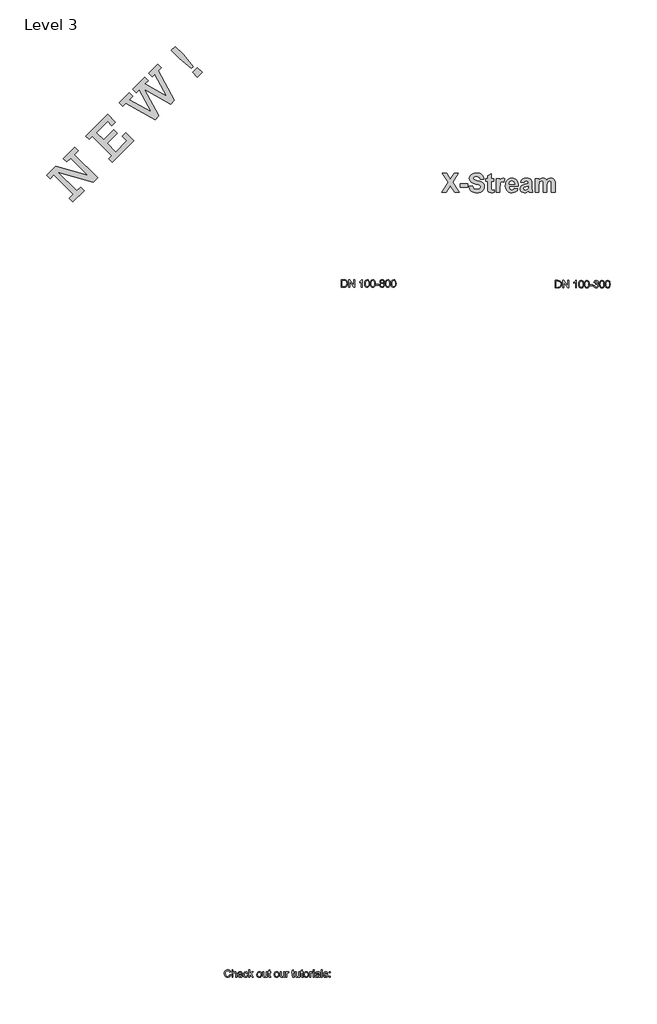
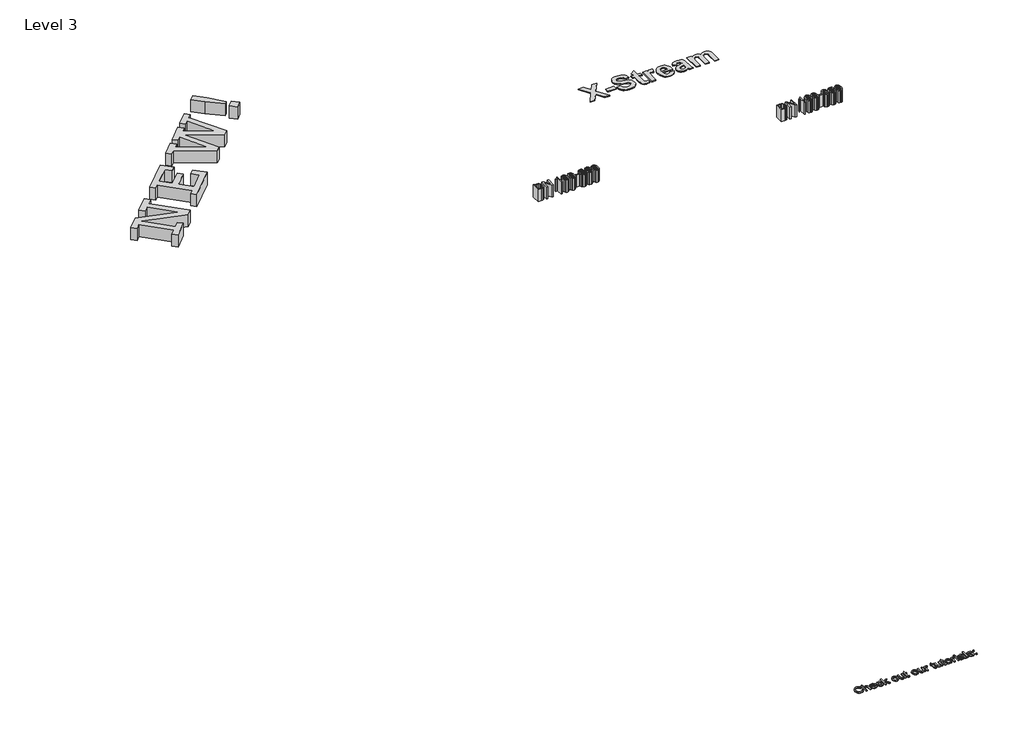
# One storey, incomplete: 5 proxies.
"""IFC4 building model written with IfcOpenShell, lengths in millimetres."""

import ifcopenshell
import ifcopenshell.guid

model = None  # the IFC model being written
_history = None  # IfcOwnerHistory: only IFC2X3 demands one
_inside = {}  # id of a spatial element -> (the spatial element, [elements in it])
_under = {}  # id of a project, library or spatial element -> (it, [spatial elements below it])
_declared = {}  # id of a project -> (the project, [libraries it declares])
_typed = {}  # id of a type object -> (the type object, [elements of that type])
_made_of = {}  # id of a material, layer set ... -> (it, [elements and type objects made of it])


def new_model(schema):
    """Start an empty IFC model of exactly this schema.

    Asked for "IFC4X3", IfcOpenShell would pick the latest addendum, in which some entities
    have other attributes; the version numbers below select the first issue.
    IFC2X3 requires an IfcOwnerHistory on every rooted entity: one is made here for all.
    """
    global model, _history
    if schema == "IFC4X3":
        model = ifcopenshell.file(schema_version=(4, 3, 0, 0))
    else:
        model = ifcopenshell.file(schema=schema)
    _inside.clear()
    _under.clear()
    _declared.clear()
    _typed.clear()
    _made_of.clear()
    _history = None
    if model.schema == "IFC2X3":
        org = make("IfcOrganization", Name="unknown")
        user = make(
            "IfcPersonAndOrganization",
            ThePerson=make("IfcPerson", FamilyName="unknown"),
            TheOrganization=org,
        )
        app = make(
            "IfcApplication",
            ApplicationDeveloper=org,
            Version="unknown",
            ApplicationFullName="unknown",
            ApplicationIdentifier="unknown",
        )
        _history = make(
            "IfcOwnerHistory",
            OwningUser=user,
            OwningApplication=app,
            ChangeAction="ADDED",
            CreationDate=0,
        )
    return model


def make(cls, **values):
    """One entity of the class cls with the attributes given. An attribute that is None is left unset."""
    return model.create_entity(
        cls, **{name: value for name, value in values.items() if value is not None}
    )


def rooted(cls, **values):
    """An entity with a GlobalId (a new one), such as an element, a storey or a relation."""
    return make(cls, GlobalId=ifcopenshell.guid.new(), OwnerHistory=_history, **values)


def si_unit(unit_type, name, prefix=None):
    """IfcSIUnit, for example si_unit("LENGTHUNIT", "METRE", prefix="MILLI")."""
    return make("IfcSIUnit", UnitType=unit_type, Prefix=prefix, Name=name)


def assignment(units):
    """IfcUnitAssignment: the units of a project."""
    return None if units is None else make("IfcUnitAssignment", Units=units)


def point(xyz):
    """IfcCartesianPoint."""
    return None if xyz is None else make("IfcCartesianPoint", Coordinates=xyz)


def direction(xyz):
    """IfcDirection."""
    return None if xyz is None else make("IfcDirection", DirectionRatios=xyz)


def frame(location, z_axis=None, x_axis=None):
    """IfcAxis2Placement3D, a coordinate frame: its origin and axes. An axis left out is left unset."""
    return make(
        "IfcAxis2Placement3D",
        Location=point(location),
        Axis=direction(z_axis),
        RefDirection=direction(x_axis),
    )


def origin():
    """The frame at (0, 0, 0) with its axes left unset."""
    return frame((0.0, 0.0, 0.0))


def origin_with_axes():
    """The frame at (0, 0, 0) with the z axis (0, 0, 1) and the x axis (1, 0, 0) written out."""
    return frame((0.0, 0.0, 0.0), z_axis=(0.0, 0.0, 1.0), x_axis=(1.0, 0.0, 0.0))


def place(relative_to, where):
    """IfcLocalPlacement: puts the frame where relative to a parent placement (None: the world)."""
    return make(
        "IfcLocalPlacement", PlacementRelTo=relative_to, RelativePlacement=where
    )


def context(
    kind, dimensions, precision=None, world=None, true_north=None, identifier=None
):
    """IfcGeometricRepresentationContext, for example the 3D "Model" context."""
    return make(
        "IfcGeometricRepresentationContext",
        ContextIdentifier=identifier,
        ContextType=kind,
        CoordinateSpaceDimension=dimensions,
        Precision=precision,
        WorldCoordinateSystem=world,
        TrueNorth=true_north,
    )


def project(units=None, contexts=None):
    """IfcProject with its units and contexts."""
    return rooted(
        "IfcProject",
        Name="project",
        RepresentationContexts=contexts,
        UnitsInContext=assignment(units),
    )


def spatial(cls, under=None, at=None, **own):
    """A site, building, storey or space (cls), placed at a placement, below another one or the project."""
    s = rooted(cls, ObjectPlacement=at, **own)
    if under is not None:
        _under.setdefault(under.id(), (under, []))[1].append(s)
    return s


def polyline(points):
    """IfcPolyline through the points."""
    return make("IfcPolyline", Points=[point(p) for p in points])


def outline(outer, holes=None, kind="AREA"):
    """IfcArbitraryClosedProfileDef: a profile drawn as a closed curve; with holes, ...WithVoids."""
    if holes is None:
        return make("IfcArbitraryClosedProfileDef", ProfileType=kind, OuterCurve=outer)
    return make(
        "IfcArbitraryProfileDefWithVoids",
        ProfileType=kind,
        OuterCurve=outer,
        InnerCurves=holes,
    )


def extrude(swept, where, along, depth):
    """IfcExtrudedAreaSolid: the profile swept, set in the frame where, extruded along a direction by depth."""
    return make(
        "IfcExtrudedAreaSolid",
        SweptArea=swept,
        Position=where,
        ExtrudedDirection=direction(along),
        Depth=depth,
    )


def shape(context_of_items, identifier, shape_type, items):
    """IfcShapeRepresentation: the items that make up one representation, for example the "Body"."""
    return make(
        "IfcShapeRepresentation",
        ContextOfItems=context_of_items,
        RepresentationIdentifier=identifier,
        RepresentationType=shape_type,
        Items=items,
    )


def made_of(thing, what):
    """Note that an element or type object is made of a material, layer set ...; save() writes the relation."""
    if what is not None:
        _made_of.setdefault(what.id(), (what, []))[1].append(thing)
    return thing


def element(
    cls,
    number,
    at=None,
    inside=None,
    cuts=None,
    type_object=None,
    material=None,
    context=None,
    identifier="Body",
    shape_type=None,
    held_by="IfcProductDefinitionShape",
    body=None,
    shapes=None,
    **own,
):
    """One element of the class cls, such as IfcWall. Its Tag is "e" and its number.

    at: its placement. inside: the storey or other place that contains it. cuts: it is an
    opening in that element (IfcRelVoidsElement). A single representation is given by context,
    identifier, shape_type and body (its items); several are given by shapes. held_by: the class
    of the entity that holds the representations. save() writes the other relations.
    """
    e = rooted(cls, Tag="e%d" % number, ObjectPlacement=at, **own)
    if body is not None:
        shapes = [shape(context, identifier, shape_type, body)]
    if shapes is not None:
        e.Representation = make(held_by, Representations=shapes)
    if inside is not None:
        _inside.setdefault(inside.id(), (inside, []))[1].append(e)
    if cuts is not None:
        rooted(
            "IfcRelVoidsElement", RelatingBuildingElement=cuts, RelatedOpeningElement=e
        )
    if type_object is not None:
        _typed.setdefault(type_object.id(), (type_object, []))[1].append(e)
    return made_of(e, material)


def aggregate(whole, parts):
    """IfcRelAggregates: a whole, such as a stair, and the parts it consists of."""
    return rooted("IfcRelAggregates", RelatingObject=whole, RelatedObjects=parts)


def save(model, path):
    """Write the relations noted so far, then the file.

    IfcRelAggregates (storeys below a building ...), IfcRelContainedInSpatialStructure (elements
    in a storey), IfcRelDefinesByType, IfcRelAssociatesMaterial and IfcRelDeclares: one each for
    every whole, place, type object, material and project.
    """
    for whole, parts in _under.values():
        aggregate(whole, parts)
    for where, things in _inside.values():
        rooted(
            "IfcRelContainedInSpatialStructure",
            RelatedElements=things,
            RelatingStructure=where,
        )
    for kind, things in _typed.values():
        rooted("IfcRelDefinesByType", RelatedObjects=things, RelatingType=kind)
    for what, things in _made_of.values():
        rooted("IfcRelAssociatesMaterial", RelatedObjects=things, RelatingMaterial=what)
    for by, libraries in _declared.values():
        rooted("IfcRelDeclares", RelatingContext=by, RelatedDefinitions=libraries)
    model.write(path)


model = new_model("IFC4")

# Units and contexts
model_context = context("Model", 3, world=origin())
ifc_project = project(units=[si_unit("LENGTHUNIT", "METRE", prefix="MILLI")], contexts=[model_context])

# Site, building, storey
site = spatial("IfcSite", under=ifc_project)
building = spatial("IfcBuilding", under=site)
storey = spatial("IfcBuildingStorey", under=building, Name="Level 3", Elevation=0.0)

# Proxies
placement = place(None, origin())
element("IfcBuildingElementProxy", 1, Name="Rockwell 500", ObjectType="Rockwell 500", at=placement, inside=storey, context=model_context, shape_type="SweptSolid", body=[
    extrude(outline(polyline([(-2591.4564423, 10466.7226895), (-2851.7151671, 10726.9814143), (-2903.7669121, 10674.9296693), (-2950.0351298, 10721.197887), (-2826.0507651, 10845.1822518), (-2396.8046044, 10723.1859745), (-2626.1576056, 10952.5389757), (-2678.2093506, 10900.4872308), (-2724.4775683, 10946.7554485), (-2574.1058607, 11097.1271562), (-2527.8376429, 11050.8589384), (-2579.8893879, 10998.8071935), (-2267.5789181, 10686.4967237), (-2323.4261028, 10630.649539), (-2797.8560699, 10765.6587525), (-2545.1882246, 10512.9909072), (-2493.1364796, 10565.0426522), (-2446.8682619, 10518.7744344), (-2597.2399695, 10368.4027268), (-2643.5081873, 10414.6709445), (-2591.4564423, 10466.7226895)])), origin_with_axes(), (0.0, 0.0, 1.0), 150.0),
    extrude(outline(polyline([(-2076.72252, 10981.4566118), (-2336.9812448, 11241.7153366), (-2377.4659353, 11201.2306461), (-2423.734153, 11247.4988638), (-2134.5577921, 11536.6752247), (-2030.4543022, 11432.5717348), (-2076.72252, 11386.3035171), (-2134.5577921, 11444.1387892), (-2284.9294998, 11293.7670816), (-2186.6095371, 11195.4471189), (-2053.5884111, 11328.4682449), (-2007.3201934, 11282.2000271), (-2140.3413194, 11149.1789011), (-2024.670775, 11033.5083568), (-1874.2990674, 11183.8800644), (-1937.9178667, 11247.4988638), (-1891.649649, 11293.7670816), (-1781.7626319, 11183.8800644), (-2070.9389928, 10894.7037036), (-2117.2072105, 10940.9719213), (-2076.72252, 10981.4566118)])), origin_with_axes(), (0.0, 0.0, 1.0), 150.0),
    extrude(outline(polyline([(-1498.5505334, 11467.0921629), (-1891.649649, 11687.0469324), (-1932.1343395, 11646.5622418), (-1978.4025573, 11692.8304596), (-1845.3814313, 11825.8515856), (-1799.1132135, 11779.5833678), (-1843.2126086, 11735.4839728), (-1552.319263, 11573.2741079), (-1712.7217757, 11865.9748057), (-1752.8449958, 11825.8515856), (-1799.1132135, 11872.1198033), (-1637.1744514, 12034.0585654), (-1590.9062337, 11987.7903477), (-1633.7404822, 11944.9560992), (-1344.1122832, 11781.4810877), (-1504.5147959, 12074.1817855), (-1538.8544887, 12039.8420926), (-1585.1227065, 12086.1103104), (-1463.6686349, 12207.5643819), (-1417.4004172, 12161.2961642), (-1457.8851077, 12120.8114737), (-1240.2798961, 11725.3628002), (-1290.4339212, 11675.2087751), (-1642.1446701, 11871.3064948), (-1449.5712873, 11516.071409), (-1498.5505334, 11467.0921629)])), origin_with_axes(), (0.0, 0.0, 1.0), 150.0),
    extrude(outline(polyline([(-984.9913901, 12177.2912317), (-1011.1979978, 12151.084624), (-1172.4138189, 12286.4553079), (-1278.595764, 12392.6372529), (-1226.544019, 12444.6889979), (-1120.362074, 12338.5070528), (-984.9913901, 12177.2912317)])), origin_with_axes(), (0.0, 0.0, 1.0), 150.0),
    extrude(outline(polyline([(-931.5841309, 12034.0585654), (-995.2029303, 12097.6773648), (-931.5841309, 12161.2961642), (-867.9653315, 12097.6773648), (-931.5841309, 12034.0585654)])), origin_with_axes(), (0.0, 0.0, 1.0), 150.0),
])
element("IfcBuildingElementProxy", 2, Name="600mm Arial", ObjectType="600mm Arial", at=placement, inside=storey, context=model_context, shape_type="SweptSolid", body=[
    extrude(outline(polyline([(993.1289142, 9224.4828841), (993.1289142, 9324.9391942), (1027.7833982, 9324.9391942), (1045.7115141, 9323.4921917), (1060.4758448, 9316.3062301), (1072.370696, 9299.1384036), (1076.3192961, 9275.2505994), (1073.6460202, 9254.9803015), (1066.7788897, 9240.3508608), (1057.6063652, 9231.2396501), (1045.6011495, 9226.1996667), (1029.4511299, 9224.4828841), (993.1289142, 9224.4828841)]), holes=[polyline([(1005.685953, 9237.0399229), (1027.9060255, 9237.0399229), (1044.0683078, 9238.8548074), (1053.387985, 9243.9806298), (1061.0276678, 9256.4518295), (1063.7622573, 9275.4468032), (1062.4225537, 9289.1320134), (1058.4034429, 9299.2365055), (1045.3681575, 9310.3710672), (1027.562669, 9312.3821555), (1005.685953, 9312.3821555), (1005.685953, 9237.0399229)])]), origin_with_axes(), (0.0, 0.0, 1.0), 150.0),
    extrude(outline(polyline([(1093.5852244, 9224.4828841), (1093.5852244, 9324.9391942), (1107.0251799, 9324.9391942), (1159.5096779, 9245.354056), (1159.5096779, 9324.9391942), (1172.0667167, 9324.9391942), (1172.0667167, 9224.4828841), (1158.6267611, 9224.4828841), (1106.1422631, 9304.0925478), (1106.1422631, 9224.4828841), (1093.5852244, 9224.4828841)])), origin_with_axes(), (0.0, 0.0, 1.0), 150.0),
    extrude(outline(polyline([(1275.6622865, 9224.4828841), (1263.1052477, 9224.4828841), (1263.1052477, 9302.7681727), (1251.2103966, 9294.294624), (1237.9911702, 9287.954791), (1237.9911702, 9299.8251167), (1256.3975327, 9311.5728151), (1267.5688826, 9324.9391942), (1275.6622865, 9324.9391942), (1275.6622865, 9224.4828841)])), origin_with_axes(), (0.0, 0.0, 1.0), 150.0),
    extrude(outline(polyline([(1305.4852536, 9273.9016988), (1309.1763363, 9302.8049609), (1320.1392197, 9319.4700152), (1338.4474804, 9324.9391942), (1353.1137092, 9321.7018327), (1363.2427268, 9312.3698927), (1369.1288388, 9297.5074601), (1371.4097071, 9273.9016988), (1367.7554126, 9245.121064), (1356.8293174, 9228.4192214), (1348.5979577, 9224.289746), (1338.4474804, 9222.9132542), (1325.3999323, 9225.3044872), (1315.4916439, 9232.4781861), (1307.9868512, 9249.4682029), (1305.4852536, 9273.9016988)]), holes=[polyline([(1318.0422924, 9273.9262242), (1319.5138203, 9254.1740268), (1323.9284043, 9242.7420938), (1330.5012293, 9237.2882432), (1338.4474804, 9235.470293), (1346.3937315, 9237.2943746), (1352.9665564, 9242.7666193), (1357.3811404, 9254.2046836), (1358.8526684, 9273.9262242), (1357.4301913, 9293.2338976), (1353.1627602, 9304.7547354), (1346.6021979, 9310.4753005), (1338.3003276, 9312.3821555), (1330.4399156, 9310.702161), (1324.124608, 9305.6621777), (1319.5628713, 9293.42397), (1318.0422924, 9273.9262242)])]), origin_with_axes(), (0.0, 0.0, 1.0), 150.0),
    extrude(outline(polyline([(1382.397116, 9273.9016988), (1386.0881987, 9302.8049609), (1397.0510822, 9319.4700152), (1415.3593428, 9324.9391942), (1430.0255717, 9321.7018327), (1440.1545893, 9312.3698927), (1446.0407012, 9297.5074601), (1448.3215696, 9273.9016988), (1444.6672751, 9245.121064), (1433.7411798, 9228.4192214), (1425.5098202, 9224.289746), (1415.3593428, 9222.9132542), (1402.3117947, 9225.3044872), (1392.4035063, 9232.4781861), (1384.8987136, 9249.4682029), (1382.397116, 9273.9016988)]), holes=[polyline([(1394.9541548, 9273.9262242), (1396.4256828, 9254.1740268), (1400.8402667, 9242.7420938), (1407.4130917, 9237.2882432), (1415.3593428, 9235.470293), (1423.3055939, 9237.2943746), (1429.8784189, 9242.7666193), (1434.2930028, 9254.2046836), (1435.7645308, 9273.9262242), (1434.3420538, 9293.2338976), (1430.0746226, 9304.7547354), (1423.5140604, 9310.4753005), (1415.21219, 9312.3821555), (1407.3517781, 9310.702161), (1401.0364705, 9305.6621777), (1396.4747337, 9293.42397), (1394.9541548, 9273.9262242)])]), origin_with_axes(), (0.0, 0.0, 1.0), 150.0),
    extrude(outline(polyline([(1456.1697188, 9254.3058512), (1456.1697188, 9266.8628899), (1495.410465, 9266.8628899), (1495.410465, 9254.3058512), (1456.1697188, 9254.3058512)])), origin_with_axes(), (0.0, 0.0, 1.0), 150.0),
    extrude(outline(polyline([(1524.6938718, 9279.8123362), (1513.2527417, 9287.6114345), (1509.5371336, 9299.7515403), (1511.5604846, 9309.5678582), (1517.6305375, 9317.6796562), (1527.0667107, 9323.1243097), (1539.1884224, 9324.9391942), (1551.3837105, 9323.0813902), (1560.942511, 9317.5079779), (1567.1229286, 9309.2674212), (1569.1830677, 9299.4081838), (1565.5165105, 9287.5746463), (1554.3942115, 9279.8123362), (1567.748328, 9269.9653614), (1572.3223274, 9253.71724), (1570.0537218, 9241.7120242), (1563.2479049, 9231.7914731), (1552.7387425, 9225.1328089), (1539.3601007, 9222.9132542), (1525.9814588, 9225.142006), (1515.4722964, 9231.8282613), (1508.6664795, 9241.8438486), (1506.3978739, 9254.0605965), (1511.1558144, 9270.6888627), (1524.6938718, 9279.8123362)]), holes=[polyline([(1522.0941723, 9299.3836583), (1526.5455445, 9289.5244208), (1539.5072535, 9285.6984481), (1552.211445, 9289.4998954), (1556.626029, 9298.8195726), (1552.0642922, 9308.4703436), (1539.3601007, 9312.3821555), (1526.6191209, 9308.5561827), (1522.0941723, 9299.3836583)]), polyline([(1518.9549127, 9254.5020549), (1521.05184, 9245.0474876), (1528.4707936, 9237.9718906), (1539.4582025, 9235.470293), (1548.0053275, 9236.7854711), (1554.418737, 9240.7310055), (1559.7652887, 9254.1096474), (1554.2470587, 9267.7458067), (1547.6864965, 9271.7925087), (1539.0412696, 9273.1414093), (1530.6137062, 9271.8109028), (1524.2646761, 9267.8193831), (1518.9549127, 9254.5020549)])]), origin_with_axes(), (0.0, 0.0, 1.0), 150.0),
    extrude(outline(polyline([(1583.3097363, 9273.9016988), (1587.000819, 9302.8049609), (1597.9637025, 9319.4700152), (1616.2719631, 9324.9391942), (1630.938192, 9321.7018327), (1641.0672096, 9312.3698927), (1646.9533215, 9297.5074601), (1649.2341899, 9273.9016988), (1645.5798954, 9245.121064), (1634.6538001, 9228.4192214), (1626.4224405, 9224.289746), (1616.2719631, 9222.9132542), (1603.224415, 9225.3044872), (1593.3161266, 9232.4781861), (1585.8113339, 9249.4682029), (1583.3097363, 9273.9016988)]), holes=[polyline([(1595.8667751, 9273.9262242), (1597.3383031, 9254.1740268), (1601.752887, 9242.7420938), (1608.325712, 9237.2882432), (1616.2719631, 9235.470293), (1624.2182142, 9237.2943746), (1630.7910392, 9242.7666193), (1635.2056231, 9254.2046836), (1636.6771511, 9273.9262242), (1635.2546741, 9293.2338976), (1630.9872429, 9304.7547354), (1624.4266807, 9310.4753005), (1616.1248103, 9312.3821555), (1608.2643984, 9310.702161), (1601.9490908, 9305.6621777), (1597.387354, 9293.42397), (1595.8667751, 9273.9262242)])]), origin_with_axes(), (0.0, 0.0, 1.0), 150.0),
    extrude(outline(polyline([(1660.2215988, 9273.9016988), (1663.9126815, 9302.8049609), (1674.8755649, 9319.4700152), (1693.1838256, 9324.9391942), (1707.8500544, 9321.7018327), (1717.979072, 9312.3698927), (1723.865184, 9297.5074601), (1726.1460523, 9273.9016988), (1722.4917579, 9245.121064), (1711.5656626, 9228.4192214), (1703.334303, 9224.289746), (1693.1838256, 9222.9132542), (1680.1362775, 9225.3044872), (1670.2279891, 9232.4781861), (1662.7231964, 9249.4682029), (1660.2215988, 9273.9016988)]), holes=[polyline([(1672.7786376, 9273.9262242), (1674.2501656, 9254.1740268), (1678.6647495, 9242.7420938), (1685.2375745, 9237.2882432), (1693.1838256, 9235.470293), (1701.1300767, 9237.2943746), (1707.7029016, 9242.7666193), (1712.1174856, 9254.2046836), (1713.5890136, 9273.9262242), (1712.1665365, 9293.2338976), (1707.8991054, 9304.7547354), (1701.3385431, 9310.4753005), (1693.0366728, 9312.3821555), (1685.1762608, 9310.702161), (1678.8609532, 9305.6621777), (1674.2992165, 9293.42397), (1672.7786376, 9273.9262242)])]), origin_with_axes(), (0.0, 0.0, 1.0), 150.0),
])
element("IfcBuildingElementProxy", 3, Name="600mm Arial", ObjectType="600mm Arial", at=placement, inside=storey, context=model_context, shape_type="SweptSolid", body=[
    extrude(outline(polyline([(3856.8161411, 9215.0395439), (3856.8161411, 9315.4958541), (3891.470625, 9315.4958541), (3909.3987409, 9314.0488516), (3924.1630716, 9306.8628899), (3936.0579228, 9289.6950635), (3940.0065229, 9265.8072593), (3937.3332471, 9245.5369613), (3930.4661165, 9230.9075207), (3921.2935921, 9221.7963099), (3909.2883763, 9216.7563266), (3893.1383567, 9215.0395439), (3856.8161411, 9215.0395439)]), holes=[polyline([(3869.3731798, 9227.5965827), (3891.5932523, 9227.5965827), (3907.7555347, 9229.4114672), (3917.0752119, 9234.5372897), (3924.7148946, 9247.0084893), (3927.4494841, 9266.003463), (3926.1097805, 9279.6886732), (3922.0906697, 9289.7931654), (3909.0553844, 9300.9277271), (3891.2498958, 9302.9388153), (3869.3731798, 9302.9388153), (3869.3731798, 9227.5965827)])]), origin_with_axes(), (0.0, 0.0, 1.0), 150.0),
    extrude(outline(polyline([(3957.2724512, 9215.0395439), (3957.2724512, 9315.4958541), (3970.7124068, 9315.4958541), (4023.1969047, 9235.9107158), (4023.1969047, 9315.4958541), (4035.7539435, 9315.4958541), (4035.7539435, 9215.0395439), (4022.3139879, 9215.0395439), (3969.82949, 9294.6492077), (3969.82949, 9215.0395439), (3957.2724512, 9215.0395439)])), origin_with_axes(), (0.0, 0.0, 1.0), 150.0),
    extrude(outline(polyline([(4139.3495133, 9215.0395439), (4126.7924746, 9215.0395439), (4126.7924746, 9293.3248325), (4114.8976234, 9284.8512839), (4101.678397, 9278.5114508), (4101.678397, 9290.3817766), (4120.0847595, 9302.1294749), (4131.2561095, 9315.4958541), (4139.3495133, 9315.4958541), (4139.3495133, 9215.0395439)])), origin_with_axes(), (0.0, 0.0, 1.0), 150.0),
    extrude(outline(polyline([(4169.1724804, 9264.4583586), (4172.8635631, 9293.3616207), (4183.8264466, 9310.0266751), (4202.1347072, 9315.4958541), (4216.8009361, 9312.2584925), (4226.9299537, 9302.9265526), (4232.8160656, 9288.06412), (4235.096934, 9264.4583586), (4231.4426395, 9235.6777239), (4220.5165442, 9218.9758813), (4212.2851846, 9214.8464059), (4202.1347072, 9213.4699141), (4189.0871591, 9215.8611471), (4179.1788707, 9223.034846), (4171.674078, 9240.0248628), (4169.1724804, 9264.4583586)]), holes=[polyline([(4181.7295192, 9264.4828841), (4183.2010472, 9244.7306866), (4187.6156311, 9233.2987536), (4194.1884561, 9227.8449031), (4202.1347072, 9226.0269529), (4210.0809583, 9227.8510344), (4216.6537833, 9233.3232791), (4221.0683672, 9244.7613435), (4222.5398952, 9264.4828841), (4221.1174181, 9283.7905575), (4216.849987, 9295.3113953), (4210.2894248, 9301.0319603), (4201.9875544, 9302.9388153), (4194.1271424, 9301.2588209), (4187.8118348, 9296.2188375), (4183.2500981, 9283.9806298), (4181.7295192, 9264.4828841)])]), origin_with_axes(), (0.0, 0.0, 1.0), 150.0),
    extrude(outline(polyline([(4246.0843429, 9264.4583586), (4249.7754256, 9293.3616207), (4260.738309, 9310.0266751), (4279.0465696, 9315.4958541), (4293.7127985, 9312.2584925), (4303.8418161, 9302.9265526), (4309.727928, 9288.06412), (4312.0087964, 9264.4583586), (4308.3545019, 9235.6777239), (4297.4284067, 9218.9758813), (4289.197047, 9214.8464059), (4279.0465696, 9213.4699141), (4265.9990216, 9215.8611471), (4256.0907332, 9223.034846), (4248.5859404, 9240.0248628), (4246.0843429, 9264.4583586)]), holes=[polyline([(4258.6413816, 9264.4828841), (4260.1129096, 9244.7306866), (4264.5274936, 9233.2987536), (4271.1003186, 9227.8449031), (4279.0465696, 9226.0269529), (4286.9928207, 9227.8510344), (4293.5656457, 9233.3232791), (4297.9802297, 9244.7613435), (4299.4517576, 9264.4828841), (4298.0292806, 9283.7905575), (4293.7618495, 9295.3113953), (4287.2012872, 9301.0319603), (4278.8994169, 9302.9388153), (4271.0390049, 9301.2588209), (4264.7236973, 9296.2188375), (4260.1619606, 9283.9806298), (4258.6413816, 9264.4828841)])]), origin_with_axes(), (0.0, 0.0, 1.0), 150.0),
    extrude(outline(polyline([(4319.8569456, 9244.862511), (4319.8569456, 9257.4195498), (4359.0976918, 9257.4195498), (4359.0976918, 9244.862511), (4319.8569456, 9244.862511)])), origin_with_axes(), (0.0, 0.0, 1.0), 150.0),
    extrude(outline(polyline([(4370.0851007, 9241.7232513), (4382.6421395, 9243.2928812), (4389.5705837, 9230.0736548), (4402.5322927, 9226.0269529), (4411.1407314, 9227.4187731), (4417.7871328, 9231.5942337), (4423.4525155, 9245.3775458), (4417.8361837, 9258.3637802), (4403.5623623, 9263.5018654), (4394.7577199, 9262.1284393), (4396.1556714, 9274.6854781), (4398.1667597, 9274.5383253), (4412.4160556, 9278.1435688), (4417.1617334, 9282.7175683), (4418.743626, 9289.2290796), (4414.1573637, 9299.0515289), (4402.336089, 9302.9388153), (4390.3676614, 9299.0147407), (4384.2117693, 9287.2425169), (4371.6547306, 9288.8121467), (4375.3519446, 9300.0877299), (4381.930901, 9308.5060962), (4390.9317471, 9313.7484146), (4401.8946306, 9315.4958541), (4417.039106, 9312.0500261), (4427.6341075, 9302.632247), (4431.3006647, 9289.9648436), (4427.8180485, 9278.3888235), (4417.5173526, 9270.0746904), (4431.2025629, 9261.4907772), (4436.0095543, 9245.1568166), (4433.6060586, 9232.9186089), (4426.3955715, 9222.6914894), (4415.5123958, 9215.7753079), (4402.0908343, 9213.4699141), (4389.9507285, 9215.4380828), (4380.0669655, 9221.3425888), (4373.1937036, 9230.3740918), (4370.0851007, 9241.7232513)])), origin_with_axes(), (0.0, 0.0, 1.0), 150.0),
    extrude(outline(polyline([(4446.9969632, 9264.4583586), (4450.6880459, 9293.3616207), (4461.6509293, 9310.0266751), (4479.9591899, 9315.4958541), (4494.6254188, 9312.2584925), (4504.7544364, 9302.9265526), (4510.6405483, 9288.06412), (4512.9214167, 9264.4583586), (4509.2671222, 9235.6777239), (4498.341027, 9218.9758813), (4490.1096673, 9214.8464059), (4479.9591899, 9213.4699141), (4466.9116419, 9215.8611471), (4457.0033534, 9223.034846), (4449.4985607, 9240.0248628), (4446.9969632, 9264.4583586)]), holes=[polyline([(4459.5540019, 9264.4828841), (4461.0255299, 9244.7306866), (4465.4401139, 9233.2987536), (4472.0129389, 9227.8449031), (4479.9591899, 9226.0269529), (4487.905441, 9227.8510344), (4494.478266, 9233.3232791), (4498.89285, 9244.7613435), (4500.3643779, 9264.4828841), (4498.9419009, 9283.7905575), (4494.6744698, 9295.3113953), (4488.1139075, 9301.0319603), (4479.8120372, 9302.9388153), (4471.9516252, 9301.2588209), (4465.6363176, 9296.2188375), (4461.0745809, 9283.9806298), (4459.5540019, 9264.4828841)])]), origin_with_axes(), (0.0, 0.0, 1.0), 150.0),
    extrude(outline(polyline([(4523.9088256, 9264.4583586), (4527.5999083, 9293.3616207), (4538.5627918, 9310.0266751), (4556.8710524, 9315.4958541), (4571.5372813, 9312.2584925), (4581.6662989, 9302.9265526), (4587.5524108, 9288.06412), (4589.8332792, 9264.4583586), (4586.1789847, 9235.6777239), (4575.2528894, 9218.9758813), (4567.0215298, 9214.8464059), (4556.8710524, 9213.4699141), (4543.8235043, 9215.8611471), (4533.9152159, 9223.034846), (4526.4104232, 9240.0248628), (4523.9088256, 9264.4583586)]), holes=[polyline([(4536.4658644, 9264.4828841), (4537.9373924, 9244.7306866), (4542.3519763, 9233.2987536), (4548.9248013, 9227.8449031), (4556.8710524, 9226.0269529), (4564.8173035, 9227.8510344), (4571.3901285, 9233.3232791), (4575.8047124, 9244.7613435), (4577.2762404, 9264.4828841), (4575.8537634, 9283.7905575), (4571.5863322, 9295.3113953), (4565.02577, 9301.0319603), (4556.7238996, 9302.9388153), (4548.8634876, 9301.2588209), (4542.5481801, 9296.2188375), (4537.9864433, 9283.9806298), (4536.4658644, 9264.4828841)])]), origin_with_axes(), (0.0, 0.0, 1.0), 150.0),
])
element("IfcBuildingElementProxy", 4, Name="Arial 100", ObjectType="Arial 100", at=placement, inside=storey, context=model_context, shape_type="SweptSolid", body=[
    extrude(outline(polyline([(-496.4383449, 27.9039584), (-483.8813061, 24.6665968), (-489.6754475, 10.0340905), (-498.7682642, -0.6559472), (-510.7121663, -7.1950496), (-525.0595641, -9.3747505), (-539.6246254, -7.7254129), (-551.1914485, -2.7774), (-560.0574046, 5.2976098), (-566.519865, 16.3279383), (-571.7805775, 43.1833239), (-570.2937211, 57.8311587), (-565.8331519, 70.480168), (-558.6318618, 80.7287472), (-548.9228429, 88.1752919), (-537.4081364, 92.7094375), (-524.789784, 94.2208194), (-511.0218003, 92.2649134), (-499.6389182, 86.3971956), (-490.996757, 76.9794165), (-485.450936, 64.3733268), (-498.0079747, 61.3812199), (-508.3086706, 76.820001), (-525.2802933, 81.6637806), (-544.9251918, 76.2927035), (-556.0229654, 61.8717293), (-559.2235387, 43.2078494), (-555.4343542, 21.5763881), (-543.6376049, 7.7562878), (-526.3103629, 3.1822883), (-515.8287917, 4.7396554), (-507.09466, 9.4117568), (-500.5003752, 17.1495414), (-496.4383449, 27.9039584)])), origin_with_axes(), (0.0, 0.0, 1.0), 10.0),
    extrude(outline(polyline([(-468.1850077, -7.8051206), (-468.1850077, 92.6511895), (-455.6279689, 92.6511895), (-455.6279689, 55.7158372), (-445.8361764, 64.5817933), (-433.7757784, 67.537112), (-419.6736352, 64.3120132), (-411.1142475, 55.3970062), (-408.5390735, 38.8913673), (-408.5390735, -7.8051206), (-421.0961123, -7.8051206), (-421.0961123, 37.5915176), (-425.0937633, 50.8352694), (-436.4245287, 54.9800732), (-446.7129619, 52.1841701), (-453.5800924, 44.605801), (-455.6279689, 31.3865746), (-455.6279689, -7.8051206), (-468.1850077, -7.8051206)])), origin_with_axes(), (0.0, 0.0, 1.0), 10.0),
    extrude(outline(polyline([(-339.6225131, 14.1696972), (-327.310729, 12.6000674), (-331.7467727, 3.3233097), (-338.8254354, -3.6112659), (-348.3873016, -7.9338793), (-360.2729557, -9.3747505), (-375.0066296, -6.8884813), (-386.3435265, 0.5703261), (-393.5724077, 12.5172939), (-395.9820347, 28.4680441), (-393.5478822, 44.9552889), (-386.2454246, 57.2854671), (-375.0618119, 64.9742008), (-360.9841943, 67.537112), (-347.3449693, 64.9803321), (-336.4464652, 57.3099925), (-329.3003574, 45.0043398), (-326.9183215, 28.5416205), (-326.9918979, 25.1571061), (-383.424996, 25.1571061), (-381.2514265, 15.7577212), (-376.2022461, 8.847671), (-368.9151169, 4.598634), (-360.0277011, 3.1822883), (-347.715917, 5.8065132), (-339.6225131, 14.1696972)]), holes=[polyline([(-383.424996, 37.7141449), (-339.4753603, 37.7141449), (-344.5030809, 49.0939613), (-351.8239326, 53.5085452), (-361.0332452, 54.9800732), (-376.4965517, 50.2834464), (-381.3617911, 44.7928076), (-383.424996, 37.7141449)])]), origin_with_axes(), (0.0, 0.0, 1.0), 10.0),
    extrude(outline(polyline([(-267.2723874, 18.8785868), (-254.7153486, 17.3089569), (-258.2163589, 6.1406727), (-264.7953153, -2.2991534), (-273.8329496, -7.6058512), (-284.7099939, -9.3747505), (-298.067176, -6.9068754), (-308.511959, 0.4967497), (-315.2533966, 12.5111626), (-317.5005424, 28.8114006), (-313.6623069, 49.6703098), (-301.9636595, 63.0734771), (-284.8816722, 67.537112), (-274.2713423, 66.0042703), (-265.7885966, 61.4057454), (-259.7032153, 53.9867918), (-256.2849784, 43.9926643), (-268.8420172, 42.4230345), (-274.6668155, 51.8285508), (-284.7835703, 54.9800732), (-292.898434, 53.4288375), (-299.3394346, 48.7751302), (-303.5424864, 40.7675655), (-304.9435037, 29.1547572), (-303.5731432, 17.385599), (-299.4620619, 9.3504431), (-293.1375573, 4.724327), (-285.1269269, 3.1822883), (-273.2933893, 7.0327865), (-267.2723874, 18.8785868)])), origin_with_axes(), (0.0, 0.0, 1.0), 10.0),
    extrude(outline(polyline([(-243.7279397, -7.8051206), (-243.7279397, 92.6511895), (-231.1709009, 92.6511895), (-231.1709009, 38.6706381), (-203.0156655, 65.9674821), (-185.6516354, 65.9674821), (-214.1502272, 38.3272816), (-184.0820055, -7.8051206), (-198.7482344, -7.8051206), (-223.1510734, 29.5962156), (-231.1709009, 21.8216427), (-231.1709009, -7.8051206), (-243.7279397, -7.8051206)])), origin_with_axes(), (0.0, 0.0, 1.0), 10.0),
    extrude(outline(polyline([(-136.9931101, 29.0811808), (-134.2769147, 46.8682752), (-126.1283285, 59.3701317), (-116.0606246, 65.4953669), (-104.0063579, 67.537112), (-90.8147227, 65.0508428), (-80.2779692, 57.5920354), (-73.3709847, 45.7493008), (-71.0686566, 30.1112504), (-75.139884, 7.7685505), (-86.997947, -4.8743274), (-104.0063579, -9.3747505), (-117.3574086, -6.8976784), (-127.8818994, 0.5335379), (-134.7153074, 12.6245928), (-136.9931101, 29.0811808)]), holes=[polyline([(-124.4360714, 29.1057062), (-122.9829375, 17.7412183), (-118.6235358, 9.6447487), (-112.0629736, 4.7979034), (-104.0063579, 3.1822883), (-95.9865304, 4.8071004), (-89.4382309, 9.6815369), (-85.0788292, 17.8853054), (-83.6256954, 29.4981137), (-85.0880263, 40.5315079), (-89.4750191, 48.5176128), (-96.0325156, 53.3644581), (-104.0063579, 54.9800732), (-112.0629736, 53.3705895), (-118.6235358, 48.5421383), (-122.9829375, 40.4640628), (-124.4360714, 29.1057062)])]), origin_with_axes(), (0.0, 0.0, 1.0), 10.0),
    extrude(outline(polyline([(-9.8530926, -7.8051206), (-9.8530926, 4.8745455), (-19.6878046, -5.8124265), (-32.5146235, -9.3747505), (-44.3236355, -6.8731529), (-52.4660904, -0.5946335), (-56.206224, 8.6514673), (-56.941988, 20.3255893), (-56.941988, 65.9674821), (-44.3849492, 65.9674821), (-44.3849492, 26.2362267), (-43.6246598, 13.4339332), (-38.6582528, 5.9168778), (-29.3017874, 3.1822883), (-18.8171505, 5.9781915), (-11.8887063, 13.5933488), (-9.8530926, 27.5851273), (-9.8530926, 65.9674821), (2.7039462, 65.9674821), (2.7039462, -7.8051206), (-9.8530926, -7.8051206)])), origin_with_axes(), (0.0, 0.0, 1.0), 10.0),
    extrude(outline(polyline([(46.6535819, 2.6672535), (48.2232117, -8.1730026), (38.8299581, -9.3747505), (28.308533, -7.2900858), (23.0600832, -1.8209068), (21.5395043, 12.4283891), (21.5395043, 53.4104434), (12.1217253, 53.4104434), (12.1217253, 65.9674821), (21.5395043, 65.9674821), (21.5395043, 83.895598), (34.0965431, 91.2777634), (34.0965431, 65.9674821), (46.6535819, 65.9674821), (46.6535819, 53.4104434), (34.0965431, 53.4104434), (34.0965431, 12.7962711), (34.7587307, 6.321548), (36.904709, 4.0284169), (41.1844029, 3.1822883), (46.6535819, 2.6672535)])), origin_with_axes(), (0.0, 0.0, 1.0), 10.0),
    extrude(outline(polyline([(95.3121071, 29.0811808), (98.0283025, 46.8682752), (106.1768887, 59.3701317), (116.2445926, 65.4953669), (128.2988593, 67.537112), (141.4904945, 65.0508428), (152.027248, 57.5920354), (158.9342325, 45.7493008), (161.2365606, 30.1112504), (157.1653332, 7.7685505), (145.3072702, -4.8743274), (128.2988593, -9.3747505), (114.9478086, -6.8976784), (104.4233178, 0.5335379), (97.5899098, 12.6245928), (95.3121071, 29.0811808)]), holes=[polyline([(107.8691459, 29.1057062), (109.3222797, 17.7412183), (113.6816814, 9.6447487), (120.2422436, 4.7979034), (128.2988593, 3.1822883), (136.3186868, 4.8071004), (142.8669863, 9.6815369), (147.226388, 17.8853054), (148.6795219, 29.4981137), (147.2171909, 40.5315079), (142.8301981, 48.5176128), (136.2727016, 53.3644581), (128.2988593, 54.9800732), (120.2422436, 53.3705895), (113.6816814, 48.5421383), (109.3222797, 40.4640628), (107.8691459, 29.1057062)])]), origin_with_axes(), (0.0, 0.0, 1.0), 10.0),
    extrude(outline(polyline([(222.4521246, -7.8051206), (222.4521246, 4.8745455), (212.6174126, -5.8124265), (199.7905937, -9.3747505), (187.9815817, -6.8731529), (179.8391269, -0.5946335), (176.0989932, 8.6514673), (175.3632292, 20.3255893), (175.3632292, 65.9674821), (187.920268, 65.9674821), (187.920268, 26.2362267), (188.6805575, 13.4339332), (193.6469644, 5.9168778), (203.0034298, 3.1822883), (213.4880667, 5.9781915), (220.4165109, 13.5933488), (222.4521246, 27.5851273), (222.4521246, 65.9674821), (235.0091634, 65.9674821), (235.0091634, -7.8051206), (222.4521246, -7.8051206)])), origin_with_axes(), (0.0, 0.0, 1.0), 10.0),
    extrude(outline(polyline([(252.2750917, -7.8051206), (252.2750917, 65.9674821), (263.2625006, 65.9674821), (263.2625006, 55.0536496), (271.0615989, 65.1090908), (278.9097482, 67.537112), (291.5158379, 63.6620883), (287.3219831, 52.4048993), (278.4928152, 54.9800732), (271.3926927, 52.5030011), (266.8677442, 45.6358705), (264.8321305, 30.9696417), (264.8321305, -7.8051206), (252.2750917, -7.8051206)])), origin_with_axes(), (0.0, 0.0, 1.0), 10.0),
    extrude(outline(polyline([(365.2884406, 2.6672535), (366.8580705, -8.1730026), (357.4648169, -9.3747505), (346.9433918, -7.2900858), (341.694942, -1.8209068), (340.1743631, 12.4283891), (340.1743631, 53.4104434), (330.756584, 53.4104434), (330.756584, 65.9674821), (340.1743631, 65.9674821), (340.1743631, 83.895598), (352.7314019, 91.2777634), (352.7314019, 65.9674821), (365.2884406, 65.9674821), (365.2884406, 53.4104434), (352.7314019, 53.4104434), (352.7314019, 12.7962711), (353.3935894, 6.321548), (355.5395677, 4.0284169), (359.8192616, 3.1822883), (365.2884406, 2.6672535)])), origin_with_axes(), (0.0, 0.0, 1.0), 10.0),
    extrude(outline(polyline([(424.9343748, -7.8051206), (424.9343748, 4.8745455), (415.0996628, -5.8124265), (402.2728439, -9.3747505), (390.4638318, -6.8731529), (382.321377, -0.5946335), (378.5812434, 8.6514673), (377.8454794, 20.3255893), (377.8454794, 65.9674821), (390.4025182, 65.9674821), (390.4025182, 26.2362267), (391.1628076, 13.4339332), (396.1292145, 5.9168778), (405.48568, 3.1822883), (415.9703168, 5.9781915), (422.8987611, 13.5933488), (424.9343748, 27.5851273), (424.9343748, 65.9674821), (437.4914135, 65.9674821), (437.4914135, -7.8051206), (424.9343748, -7.8051206)])), origin_with_axes(), (0.0, 0.0, 1.0), 10.0),
    extrude(outline(polyline([(481.4410492, 2.6672535), (483.0106791, -8.1730026), (473.6174255, -9.3747505), (463.0960004, -7.2900858), (457.8475506, -1.8209068), (456.3269717, 12.4283891), (456.3269717, 53.4104434), (446.9091926, 53.4104434), (446.9091926, 65.9674821), (456.3269717, 65.9674821), (456.3269717, 83.895598), (468.8840105, 91.2777634), (468.8840105, 65.9674821), (481.4410492, 65.9674821), (481.4410492, 53.4104434), (468.8840105, 53.4104434), (468.8840105, 12.7962711), (469.5461981, 6.321548), (471.6921764, 4.0284169), (475.9718702, 3.1822883), (481.4410492, 2.6672535)])), origin_with_axes(), (0.0, 0.0, 1.0), 10.0),
    extrude(outline(polyline([(490.8588283, 29.0811808), (493.5750237, 46.8682752), (501.7236099, 59.3701317), (511.7913138, 65.4953669), (523.8455805, 67.537112), (537.0372158, 65.0508428), (547.5739692, 57.5920354), (554.4809537, 45.7493008), (556.7832818, 30.1112504), (552.7120544, 7.7685505), (540.8539915, -4.8743274), (523.8455805, -9.3747505), (510.4945298, -6.8976784), (499.9700391, 0.5335379), (493.136631, 12.6245928), (490.8588283, 29.0811808)]), holes=[polyline([(503.4158671, 29.1057062), (504.869001, 17.7412183), (509.2284026, 9.6447487), (515.7889648, 4.7979034), (523.8455805, 3.1822883), (531.865408, 4.8071004), (538.4137076, 9.6815369), (542.7731092, 17.8853054), (544.2262431, 29.4981137), (542.7639121, 40.5315079), (538.3769194, 48.5176128), (531.8194228, 53.3644581), (523.8455805, 54.9800732), (515.7889648, 53.3705895), (509.2284026, 48.5421383), (504.869001, 40.4640628), (503.4158671, 29.1057062)])]), origin_with_axes(), (0.0, 0.0, 1.0), 10.0),
    extrude(outline(polyline([(570.9099505, -7.8051206), (570.9099505, 65.9674821), (581.8973594, 65.9674821), (581.8973594, 55.0536496), (589.6964577, 65.1090908), (597.5446069, 67.537112), (610.1506966, 63.6620883), (605.9568419, 52.4048993), (597.127674, 54.9800732), (590.0275515, 52.5030011), (585.5026029, 45.6358705), (583.4669892, 30.9696417), (583.4669892, -7.8051206), (570.9099505, -7.8051206)])), origin_with_axes(), (0.0, 0.0, 1.0), 10.0),
    extrude(outline(polyline([(617.9988458, 80.0941508), (617.9988458, 92.6511895), (630.5558846, 92.6511895), (630.5558846, 80.0941508), (617.9988458, 80.0941508)])), origin_with_axes(), (0.0, 0.0, 1.0), 10.0),
    extrude(outline(polyline([(617.9988458, -7.8051206), (617.9988458, 65.9674821), (630.5558846, 65.9674821), (630.5558846, -7.8051206), (617.9988458, -7.8051206)])), origin_with_axes(), (0.0, 0.0, 1.0), 10.0),
    extrude(outline(polyline([(696.4803381, 1.6126585), (684.3034441, -6.8976784), (670.8512258, -9.3747505), (660.3573919, -7.8848284), (652.6165416, -3.4150621), (647.8432727, 3.3723607), (646.2521831, 11.8152525), (648.6556788, 21.7480663), (654.9709864, 28.9585534), (663.763366, 33.0788318), (674.6281476, 34.9672927), (696.4067617, 39.2837748), (696.4803381, 42.0796779), (693.0222474, 51.3503042), (679.1408334, 54.9800732), (666.4366419, 52.5643148), (660.3788517, 43.9926643), (647.8218129, 45.5622941), (653.2542037, 57.8250273), (664.1925617, 65.010989), (680.7595142, 67.537112), (695.9775661, 65.3052946), (704.573742, 59.7012255), (708.4242403, 51.1786259), (709.0373769, 40.191217), (709.0373769, 24.568495), (709.675039, 2.7530926), (712.1766366, -7.8051206), (699.6195978, -7.8051206), (696.4803381, 1.6126585)]), holes=[polyline([(696.4803381, 26.726736), (676.2223029, 22.8762378), (665.418835, 20.8406241), (660.5260045, 17.5296861), (658.8092218, 12.6981692), (662.5493555, 5.9046151), (673.5245016, 3.1822883), (686.2286932, 6.1866579), (694.420199, 13.4584587), (696.4067617, 23.1705434), (696.4803381, 26.726736)])]), origin_with_axes(), (0.0, 0.0, 1.0), 10.0),
    extrude(outline(polyline([(726.3033052, -7.8051206), (726.3033052, 92.6511895), (738.860344, 92.6511895), (738.860344, -7.8051206), (726.3033052, -7.8051206)])), origin_with_axes(), (0.0, 0.0, 1.0), 10.0),
    extrude(outline(polyline([(752.9870126, 14.1696972), (765.5440514, 15.7393271), (771.3565869, 6.4196499), (784.6739151, 3.1822883), (797.4762086, 6.1498697), (801.6455378, 13.1151022), (797.4516831, 18.7559594), (784.5267623, 22.3366775), (765.6176278, 28.4803068), (757.3648083, 35.6540057), (754.5566425, 45.7830233), (756.8129854, 55.1394888), (762.9688774, 62.2886622), (770.9519167, 66.0042703), (781.7553846, 67.537112), (797.0347502, 65.0723026), (806.7468348, 58.4013758), (811.0633169, 47.131924), (798.5062781, 45.5622941), (793.7851259, 52.4907384), (782.7364033, 54.9800732), (770.7189248, 52.601103), (767.1136812, 47.0583476), (768.6097347, 43.4040531), (773.2940987, 40.6326754), (784.1098294, 37.9593996), (802.5407174, 32.0487622), (811.1001051, 25.3533099), (814.2025766, 14.4394774), (810.5605448, 2.4219988), (800.0513825, -6.2968044), (784.5022369, -9.3747505), (771.8409649, -7.8909598), (762.6009954, -3.4395876), (756.4328406, 3.930315), (752.9870126, 14.1696972)])), origin_with_axes(), (0.0, 0.0, 1.0), 10.0),
    extrude(outline(polyline([(831.4685049, -7.8051206), (831.4685049, 4.7519182), (844.0255437, 4.7519182), (844.0255437, -7.8051206), (831.4685049, -7.8051206)])), origin_with_axes(), (0.0, 0.0, 1.0), 10.0),
    extrude(outline(polyline([(831.4685049, 53.4104434), (831.4685049, 65.9674821), (844.0255437, 65.9674821), (844.0255437, 53.4104434), (831.4685049, 53.4104434)])), origin_with_axes(), (0.0, 0.0, 1.0), 10.0),
])
element("IfcBuildingElementProxy", 5, Name="Arial 250", ObjectType="Arial 250", at=placement, inside=storey, context=model_context, shape_type="SweptSolid", body=[
    extrude(outline(polyline([(2337.6049299, 10492.8876663), (2424.5876107, 10626.6195842), (2345.7022267, 10747.9525163), (2402.5098248, 10747.9525163), (2452.9914097, 10670.332335), (2503.4729946, 10747.9525163), (2560.2805926, 10747.9525163), (2481.3952087, 10626.6195842), (2568.3778894, 10492.8876663), (2511.5702914, 10492.8876663), (2452.9914097, 10582.9700935), (2394.412528, 10492.8876663), (2337.6049299, 10492.8876663)])), origin_with_axes(), (0.0, 0.0, 1.0), 10.0),
    extrude(outline(polyline([(2586.5968073, 10561.7146893), (2586.5968073, 10606.2498219), (2683.7643692, 10606.2498219), (2683.7643692, 10561.7146893), (2586.5968073, 10561.7146893)])), origin_with_axes(), (0.0, 0.0, 1.0), 10.0),
    extrude(outline(polyline([(2699.9589628, 10577.909283), (2748.5427438, 10581.9579314), (2755.6278785, 10560.2280763), (2767.5207832, 10545.1405349), (2784.3005331, 10536.3157466), (2806.0462033, 10533.3741505), (2828.6142552, 10535.9757234), (2844.8246638, 10543.7804421), (2854.5983542, 10555.064468), (2857.8562509, 10568.1039626), (2852.4475097, 10583.3180242), (2833.5011003, 10594.2303969), (2791.3698528, 10605.0478794), (2755.406468, 10616.2291076), (2732.0318495, 10629.909111), (2714.0501571, 10653.2046544), (2708.0562597, 10681.0865574), (2710.8080754, 10699.8748164), (2719.0635225, 10717.3978728), (2732.5063005, 10732.2798188), (2750.8201085, 10743.1447463), (2773.7044611, 10749.7870601), (2800.8588725, 10752.0011647), (2842.8240622, 10746.4817183), (2859.3646097, 10739.5824102), (2872.9437923, 10729.9233789), (2883.6051013, 10717.9632603), (2891.3920281, 10704.1606903), (2896.3045727, 10688.5156691), (2898.342735, 10671.0281965), (2849.7589541, 10671.0281965), (2844.3897504, 10687.7209637), (2835.1142337, 10698.9575445), (2821.078392, 10705.3389103), (2801.4282137, 10707.4660322), (2780.7421507, 10705.2044825), (2765.1168982, 10698.4198334), (2758.759255, 10691.6193693), (2756.6400406, 10682.8578411), (2758.5694746, 10674.5865789), (2764.3577766, 10667.6121494), (2781.1612491, 10659.4436849), (2811.9610256, 10651.0063649), (2844.8325714, 10642.2290216), (2867.8513517, 10633.0404875), (2883.9826852, 10621.9146119), (2896.1918906, 10607.3252441), (2903.8779966, 10589.0905112), (2906.4400319, 10567.0285404), (2903.4114531, 10545.9629166), (2894.3257167, 10526.2890157), (2879.6968113, 10509.7464914), (2860.0387255, 10498.0749971), (2835.1379562, 10491.1480127), (2804.7810006, 10488.8390179), (2782.078521, 10490.260394), (2762.1753021, 10494.5245222), (2745.0713441, 10501.6314026), (2730.7666468, 10511.5810352), (2719.1623665, 10524.2548071), (2710.159659, 10539.5341058), (2703.7585245, 10557.418931), (2699.9589628, 10577.909283)])), origin_with_axes(), (0.0, 0.0, 1.0), 10.0),
    extrude(outline(polyline([(3035.9967811, 10679.1254933), (3035.9967811, 10642.6876576), (2999.5589454, 10642.6876576), (2999.5589454, 10562.7901116), (3000.6659977, 10534.5444629), (3005.6951781, 10527.9021491), (3015.247458, 10525.2768536), (3038.0211053, 10529.9581034), (3040.0454295, 10495.4180716), (3021.3046155, 10490.4837813), (3000.2548068, 10488.8390179), (2975.7098758, 10493.3937474), (2959.6734325, 10505.1601318), (2952.5566677, 10524.7075124), (2950.9751644, 10560.0699259), (2950.9751644, 10642.6876576), (2926.6832739, 10642.6876576), (2926.6832739, 10679.1254933), (2950.9751644, 10679.1254933), (2950.9751644, 10715.563329), (2999.5589454, 10743.9038679), (2999.5589454, 10679.1254933), (3035.9967811, 10679.1254933)])), origin_with_axes(), (0.0, 0.0, 1.0), 10.0),
    extrude(outline(polyline([(3112.9211009, 10492.8876663), (3064.33732, 10492.8876663), (3064.33732, 10679.1254933), (3112.9211009, 10679.1254933), (3112.9211009, 10653.1888394), (3132.3419613, 10677.3858397), (3151.952602, 10683.1741417), (3167.1192185, 10680.6121064), (3181.7481239, 10672.9260004), (3167.5778545, 10626.6828443), (3155.8747302, 10632.6134817), (3145.0572477, 10634.5903608), (3127.9453821, 10629.0550993), (3121.6984442, 10621.2978256), (3116.9381193, 10609.0965278), (3112.9211009, 10548.6198421), (3112.9211009, 10492.8876663)])), origin_with_axes(), (0.0, 0.0, 1.0), 10.0),
    extrude(outline(polyline([(3307.2562247, 10549.5687441), (3355.8400057, 10541.4714473), (3344.0103611, 10518.8005977), (3326.8668655, 10502.2817958), (3304.5834842, 10492.1997124), (3277.3341825, 10488.8390179), (3255.3315181, 10490.8198508), (3236.3890625, 10496.7623494), (3220.5068157, 10506.6665137), (3207.6847778, 10520.5323438), (3194.30526, 10549.2366284), (3189.8454208, 10584.6148569), (3191.3241263, 10606.4554173), (3195.760243, 10625.7972025), (3203.1537709, 10642.6402125), (3213.5047099, 10656.9844473), (3226.1171986, 10668.4424386), (3240.2953756, 10676.6267181), (3256.0392408, 10681.5372858), (3273.3487943, 10683.1741417), (3292.583828, 10681.4937945), (3309.6759247, 10676.4527527), (3324.6250846, 10668.0510165), (3337.4313074, 10656.2885859), (3347.6359574, 10641.0547554), (3354.7803985, 10622.2388201), (3358.8646307, 10599.8407798), (3359.8886541, 10573.8606346), (3238.4292017, 10573.8606346), (3241.5447632, 10553.3959821), (3249.8792855, 10538.0554002), (3262.167566, 10528.4714903), (3277.1444021, 10525.2768536), (3287.3450983, 10526.7160216), (3295.8061409, 10531.0335256), (3302.4642698, 10538.5456662), (3307.2562247, 10549.5687441)]), holes=[polyline([(3311.3048731, 10602.2011735), (3308.347462, 10621.4085309), (3300.4873906, 10635.3811124), (3289.0689369, 10643.8975076), (3275.4363786, 10646.736306), (3261.0446987, 10643.7472648), (3249.3732044, 10634.7801412), (3241.7187285, 10620.6256867), (3239.2515834, 10602.2011735), (3311.3048731, 10602.2011735)])]), origin_with_axes(), (0.0, 0.0, 1.0), 10.0),
    extrude(outline(polyline([(3436.8129739, 10622.4444155), (3392.2778414, 10630.5417124), (3401.9329189, 10653.8847009), (3416.7278822, 10670.2690749), (3438.2916795, 10679.947875), (3468.2532592, 10683.1741417), (3495.3444105, 10681.2209852), (3514.4964153, 10675.3615155), (3527.4331122, 10666.5050971), (3535.8783398, 10655.5610943), (3540.5279594, 10638.5520265), (3542.0778326, 10611.5004128), (3542.0778326, 10554.0602134), (3544.639868, 10517.8754182), (3554.2237779, 10492.8876663), (3505.6399969, 10492.8876663), (3501.0852675, 10508.3231384), (3499.3772439, 10514.4593712), (3473.3773299, 10495.2599213), (3459.0647252, 10490.4442438), (3443.8348485, 10488.8390179), (3419.0605995, 10492.7374235), (3400.1537277, 10504.4326403), (3388.1738403, 10522.0743095), (3384.1805446, 10543.8120721), (3385.9597357, 10558.7098331), (3391.2973093, 10571.8995705), (3399.8453346, 10582.7961281), (3411.2558808, 10590.8143498), (3448.2630577, 10602.2644336), (3493.4940517, 10614.3471187), (3493.4940517, 10619.4711894), (3491.9837161, 10632.0915856), (3487.4527091, 10640.473553), (3478.7465335, 10645.1706177), (3464.7106919, 10646.736306), (3454.636516, 10645.3920282), (3447.0611152, 10641.3591948), (3436.8129739, 10622.4444155)]), holes=[polyline([(3493.4940517, 10577.909283), (3466.1024148, 10571.172079), (3441.5574838, 10563.485973), (3434.9626151, 10556.5748037), (3432.7643255, 10547.9872408), (3434.5277017, 10539.3759554), (3439.8178302, 10532.0140576), (3447.8281443, 10526.9611546), (3457.7520774, 10525.2768536), (3469.6607972, 10527.2379177), (3480.9685457, 10533.1211099), (3491.722768, 10547.6709402), (3493.4940517, 10569.1161247), (3493.4940517, 10577.909283)])]), origin_with_axes(), (0.0, 0.0, 1.0), 10.0),
    extrude(outline(polyline([(3586.6129652, 10679.1254933), (3635.1967461, 10679.1254933), (3635.1967461, 10654.2010015), (3647.1568647, 10666.8767504), (3660.2003131, 10675.9308567), (3674.3270912, 10681.3633205), (3689.537199, 10683.1741417), (3705.1861741, 10681.3949505), (3718.6052294, 10676.0573769), (3729.8101802, 10667.1139758), (3738.8168414, 10654.5173022), (3751.2553648, 10667.1139758), (3764.6586051, 10676.0573769), (3779.0107475, 10681.3949505), (3794.2959767, 10683.1741417), (3812.7521201, 10681.0944649), (3828.140147, 10674.8554344), (3840.2544622, 10664.5835706), (3848.8894702, 10650.4053936), (3852.5901878, 10634.8275863), (3853.8237604, 10611.8799736), (3853.8237604, 10492.8876663), (3805.2399795, 10492.8876663), (3805.2399795, 10600.1135891), (3804.0064069, 10623.0612018), (3800.3056892, 10636.1086039), (3791.9237218, 10644.0793805), (3779.9359269, 10646.736306), (3770.2334042, 10645.1468952), (3761.1160378, 10640.3786628), (3753.524822, 10632.542314), (3748.4007514, 10621.7485541), (3744.5102533, 10582.9700935), (3744.5102533, 10492.8876663), (3695.9264723, 10492.8876663), (3695.9264723, 10595.6853799), (3693.3960671, 10631.0161633), (3685.5834408, 10642.8458079), (3671.1917609, 10646.736306), (3660.8012843, 10645.1943403), (3651.51786, 10640.5684432), (3644.0215345, 10633.0246725), (3638.992354, 10622.7290861), (3635.1967461, 10584.0455157), (3635.1967461, 10492.8876663), (3586.6129652, 10492.8876663), (3586.6129652, 10679.1254933)])), origin_with_axes(), (0.0, 0.0, 1.0), 10.0),
])

save(model, "model.ifc")
